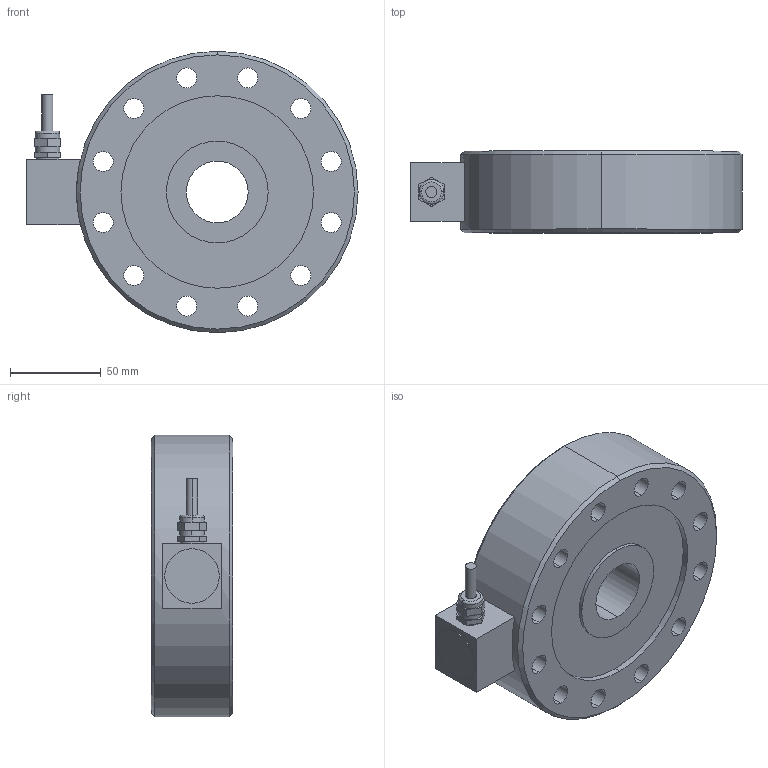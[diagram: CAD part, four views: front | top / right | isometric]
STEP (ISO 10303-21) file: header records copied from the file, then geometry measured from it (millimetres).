
FILE_DESCRIPTION (( 'STEP AP203' ), '1' );
FILE_NAME ('363YS-(10-20)t-YZ 3D耀倰.STEP', '2026-06-18T00:36:38', ( '' ), ( '' ), 'SwSTEP 2.0', 'SolidWorks 2024', '' );
FILE_SCHEMA (( 'CONFIG_CONTROL_DESIGN' ));
Length unit declared in the file: millimetre
Products named in the file (1): 363YS-(10-20)t-YZ  3D模型
Bounding box: 182.8 x 45 x 155 mm (x, y, z)
Volume: 741490.9 mm3; surface area: 85717.4 mm2
Topology: 1 solids, 1 shells, 82 faces, 198 edges, 130 vertices
Faces by surface type: cylinder 46, plane 30, cone 4, torus 2
Entity records: 2565 total; most frequent: DIRECTION 466, CARTESIAN_POINT 411, ORIENTED_EDGE 396, EDGE_CURVE 198, AXIS2_PLACEMENT_3D 185, VERTEX_POINT 130, EDGE_LOOP 120, CIRCLE 102
